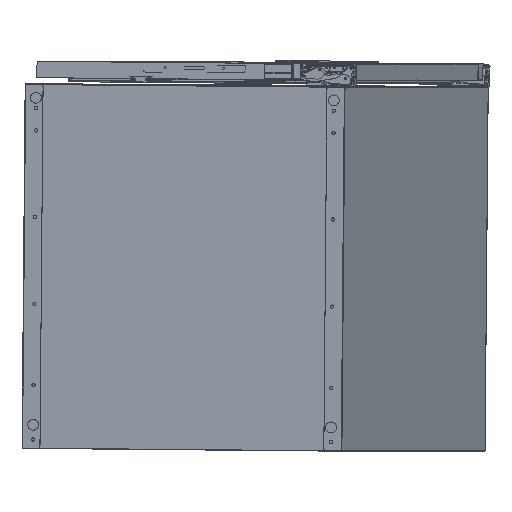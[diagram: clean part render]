
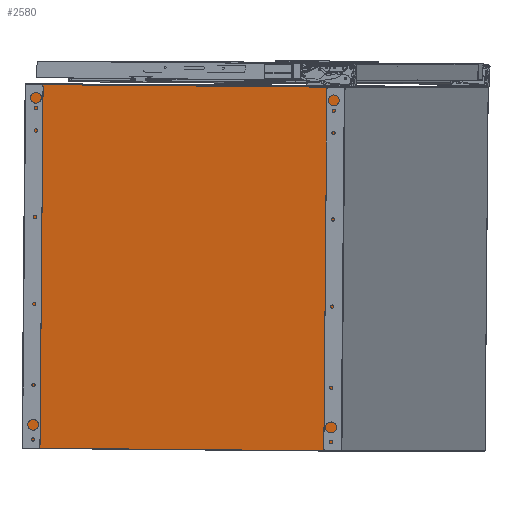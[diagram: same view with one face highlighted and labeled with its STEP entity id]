
A CAD part, front view. The second image highlights one B-rep face of the part: STEP entity #2580.
In plain terms, the highlighted planar face has unit normal (-0.154, -0.988, 0) as drawn and (0, -1, 0) by its records, which use the part's own axes.
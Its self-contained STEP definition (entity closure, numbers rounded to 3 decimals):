
#2406=DIRECTION('',(-1.,0.,0.));
#2407=VECTOR('',#2406,593.507);
#2408=CARTESIAN_POINT('',(296.754,-1709.5,334.254));
#2409=LINE('',#2408,#2407);
#2410=DIRECTION('',(0.,0.,1.));
#2411=VECTOR('',#2410,668.507);
#2412=CARTESIAN_POINT('',(296.754,-1709.5,-334.254));
#2413=LINE('',#2412,#2411);
#2414=DIRECTION('',(1.,0.,0.));
#2415=VECTOR('',#2414,593.507);
#2416=CARTESIAN_POINT('',(-296.754,-1709.5,-334.254));
#2417=LINE('',#2416,#2415);
#2418=DIRECTION('',(0.,0.,-1.));
#2419=VECTOR('',#2418,668.507);
#2420=CARTESIAN_POINT('',(-296.754,-1709.5,334.254));
#2421=LINE('',#2420,#2419);
#2498=CARTESIAN_POINT('',(296.754,-1709.5,334.254));
#2499=CARTESIAN_POINT('',(-296.754,-1709.5,334.254));
#2500=VERTEX_POINT('',#2498);
#2501=VERTEX_POINT('',#2499);
#2502=CARTESIAN_POINT('',(-296.754,-1709.5,-334.254));
#2503=VERTEX_POINT('',#2502);
#2504=CARTESIAN_POINT('',(296.754,-1709.5,-334.254));
#2505=VERTEX_POINT('',#2504);
#2567=CARTESIAN_POINT('',(0.,-1709.5,0.));
#2568=DIRECTION('',(0.,-1.,0.));
#2569=DIRECTION('',(0.,0.,-1.));
#2570=AXIS2_PLACEMENT_3D('',#2567,#2568,#2569);
#2571=PLANE('',#2570);
#2573=ORIENTED_EDGE('',*,*,#2572,.F.);
#2574=ORIENTED_EDGE('',*,*,#2552,.F.);
#2575=ORIENTED_EDGE('',*,*,#2523,.F.);
#2577=ORIENTED_EDGE('',*,*,#2576,.F.);
#2578=EDGE_LOOP('',(#2573,#2574,#2575,#2577));
#2579=FACE_OUTER_BOUND('',#2578,.F.);
#2580=ADVANCED_FACE('',(#2579),#2571,.T.);
#2523=EDGE_CURVE('',#2503,#2505,#2417,.T.);
#2552=EDGE_CURVE('',#2505,#2500,#2413,.T.);
#2572=EDGE_CURVE('',#2500,#2501,#2409,.T.);
#2576=EDGE_CURVE('',#2501,#2503,#2421,.T.);
